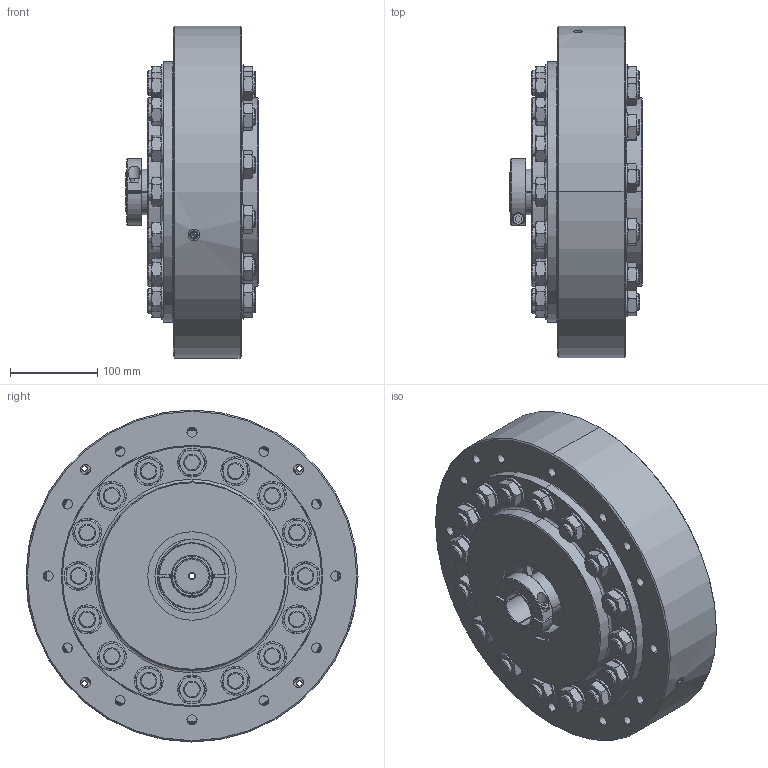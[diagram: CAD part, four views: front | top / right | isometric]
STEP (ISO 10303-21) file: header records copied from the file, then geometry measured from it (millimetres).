
FILE_DESCRIPTION (( 'STEP AP214' ), '1' );
FILE_NAME ('DM10RRRFTLN0000.STEP', '2019-10-30T16:58:53', ( '' ), ( '' ), 'SwSTEP 2.0', 'SolidWorks 2019', '' );
FILE_SCHEMA (( 'AUTOMOTIVE_DESIGN' ));
Length unit declared in the file: millimetre
Products named in the file (1): DM10RRRFTLN0000
Bounding box: 151.49 x 380.87 x 380.87 mm (x, y, z)
Surface area: 545575 mm2 (no closed solid volume)
Topology: 0 solids, 104 shells, 914 faces, 2356 edges, 1542 vertices
Faces by surface type: plane 329, cone 315, cylinder 256, torus 14
Entity records: 41616 total; most frequent: CARTESIAN_POINT 9875, DIRECTION 4678, ORIENTED_EDGE 3978, EDGE_CURVE 2354, AXIS2_PLACEMENT_3D 2001, VERTEX_POINT 1542, CIRCLE 1086, EDGE_LOOP 1073
